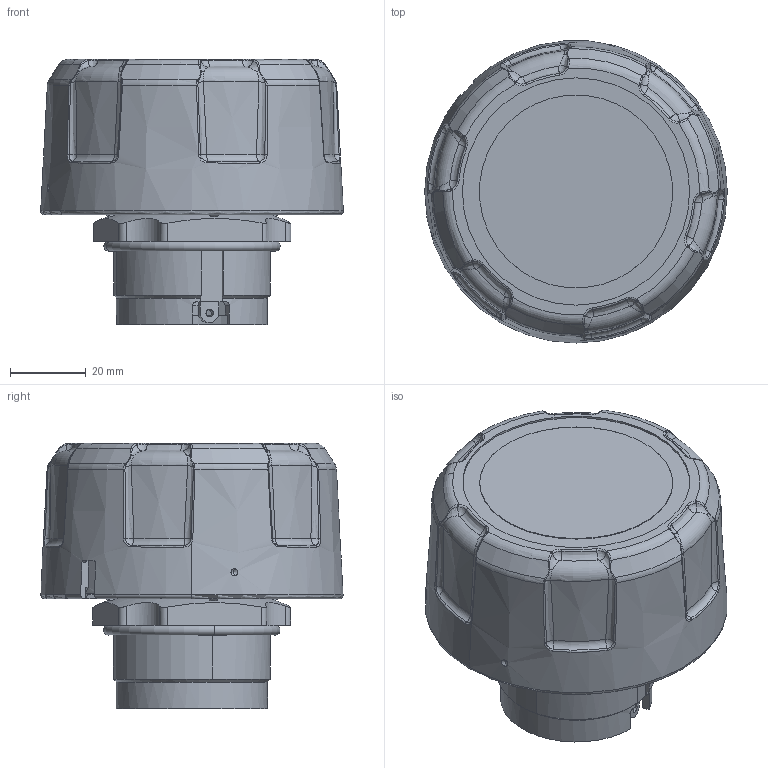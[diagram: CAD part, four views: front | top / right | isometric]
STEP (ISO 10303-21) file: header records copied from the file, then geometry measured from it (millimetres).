
FILE_DESCRIPTION((''),'2;1');
FILE_NAME('13314301_BELUEFTUNGSFILTER','2017-09-25T',('f.kollmann'),(''),'PRO/ENGINEER BY PARAMETRIC TECHNOLOGY CORPORATION, 2015110','PRO/ENGINEER BY PARAMETRIC TECHNOLOGY CORPORATION, 2015110','');
FILE_SCHEMA(('AUTOMOTIVE_DESIGN { 1 0 10303 214 1 1 1 1 }'));
Length unit declared in the file: millimetre
Products named in the file (1): 13314301_BELUEFTUNGSFILTER
Bounding box: 79.89 x 79.76 x 70 mm (x, y, z)
Volume: 220265.8 mm3; surface area: 26679.1 mm2
Topology: 1 solids, 1 shells, 386 faces, 1024 edges, 641 vertices
Faces by surface type: bspline 178, plane 67, cylinder 62, cone 38, torus 29, sphere 12
Entity records: 21943 total; most frequent: CARTESIAN_POINT 10406, ORIENTED_EDGE 2032, DIRECTION 1061, PRESENTATION_STYLE_ASSIGNMENT 1049, STYLED_ITEM 1017, CURVE_STYLE 1016, EDGE_CURVE 1016, VERTEX_POINT 641
